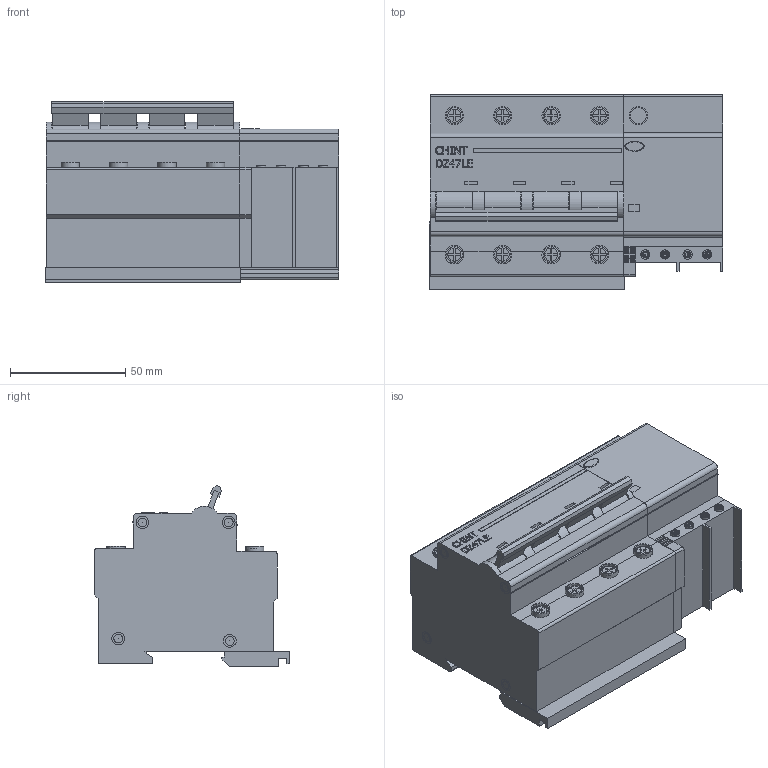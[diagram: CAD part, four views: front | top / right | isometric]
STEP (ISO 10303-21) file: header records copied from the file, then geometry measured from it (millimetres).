
FILE_DESCRIPTION(/* description */ (''),/* implementation_level */ '2;1');
FILE_NAME(/* name */ 'D:\CHINT\DZ47LE\Диф. автомат DZ47LE-32 4P 10A 30mA тип AC х-ка С 6kA (CHINT).stp',/* time_stamp */ '2017-09-24T18:46:55+04:00',/* author */ ('RSagdiev'),/* organization */ (''),/* preprocessor_version */ 'ST-DEVELOPER v16.5',/* originating_system */ 'Autodesk Inventor 2017',/* authorisation */ '');
FILE_SCHEMA (('AUTOMOTIVE_DESIGN { 1 0 10303 214 3 1 1 }'));
Length unit declared in the file: millimetre
Products named in the file (1): Диф. автомат DZ47LE-32 
4P 10A 30mA тип AC х-ка \X2\0421
\X0\ 6kA (CHINT)
Bounding box: 127.4 x 84.5 x 78.49 mm (x, y, z)
Volume: 548452.9 mm3; surface area: 71722.3 mm2
Topology: 22 solids, 22 shells, 744 faces, 1819 edges, 1193 vertices
Faces by surface type: plane 543, cylinder 162, bspline 27, torus 12
Full cylindrical faces by diameter (mm): 0.001 x18, 3 x4, 3.794 x24, 4 x4, 5.491 x20, 7 x9, 8 x9
Entity records: 21670 total; most frequent: CARTESIAN_POINT 4207, DIRECTION 3523, ORIENTED_EDGE 3410, EDGE_CURVE 1705, LINE 1213, VECTOR 1213, VERTEX_POINT 1179, AXIS2_PLACEMENT_3D 1155
